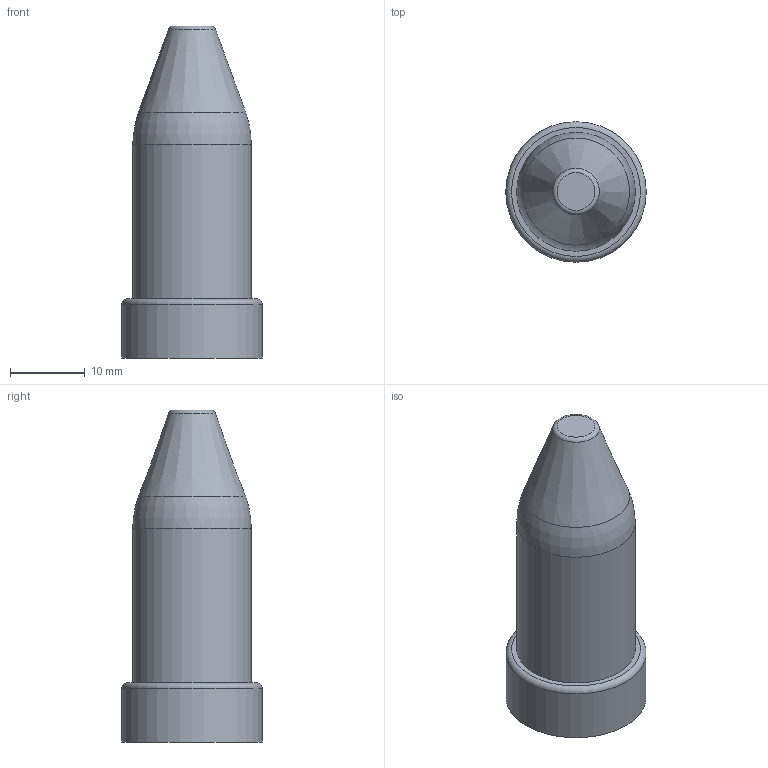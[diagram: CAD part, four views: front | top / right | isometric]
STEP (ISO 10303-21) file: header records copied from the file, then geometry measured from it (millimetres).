
FILE_DESCRIPTION (( 'STEP AP214' ), '1' );
FILE_NAME ('P-.625-.125-1.000.STEP', '2023-11-07T11:01:33', ( '' ), ( '' ), 'SwSTEP 2.0', 'SolidWorks 2020', '' );
FILE_SCHEMA (( 'AUTOMOTIVE_DESIGN' ));
Length unit declared in the file: inch
Products named in the file (1): P-.625-.125-1.000
Bounding box: 18.8 x 18.8 x 44.45 mm (x, y, z)
Volume: 8071.6 mm3; surface area: 2466.1 mm2
Topology: 1 solids, 1 shells, 9 faces, 14 edges, 8 vertices
Faces by surface type: plane 3, torus 3, cylinder 2, cone 1
Full cylindrical faces by diameter (mm): 15.875 x1, 18.796 x1
Entity records: 214 total; most frequent: DIRECTION 36, CARTESIAN_POINT 26, AXIS2_PLACEMENT_3D 18, EDGE_LOOP 16, ORIENTED_EDGE 16, FACE_OUTER_BOUND 14, ADVANCED_FACE 9, VERTEX_POINT 8
